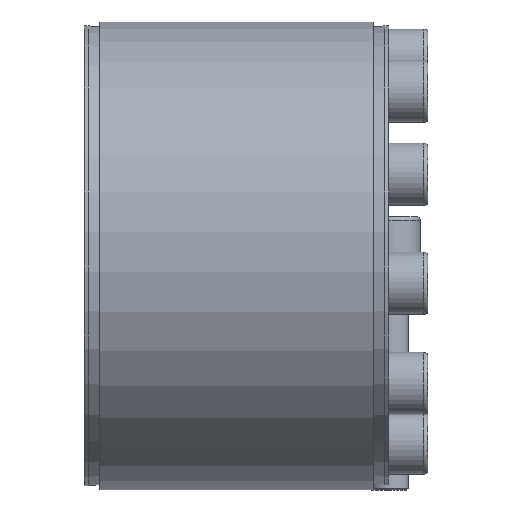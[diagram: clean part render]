
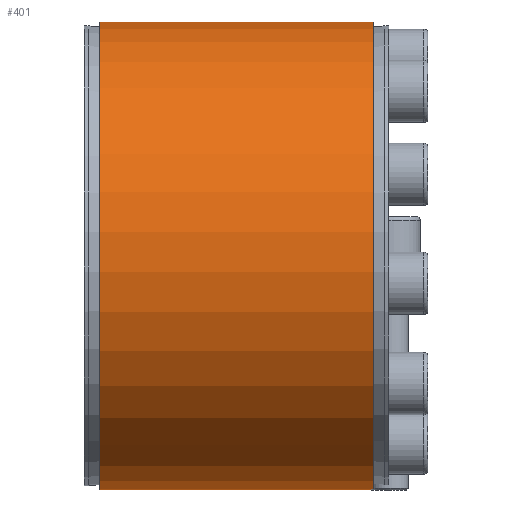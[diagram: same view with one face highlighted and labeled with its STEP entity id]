
A CAD part, left-side view. The second image highlights one B-rep face of the part: STEP entity #401.
In plain terms, the highlighted cylindrical face has radius 60 mm (diameter 120 mm), a partial arc.
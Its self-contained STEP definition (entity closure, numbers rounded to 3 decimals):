
#401 = ADVANCED_FACE( '', ( #655 ), #656, .T. );
#655 = FACE_OUTER_BOUND( '', #920, .T. );
#656 = CYLINDRICAL_SURFACE( '', #921, 60. );
#920 = EDGE_LOOP( '', ( #1254, #1255, #1256, #1257 ) );
#921 = AXIS2_PLACEMENT_3D( '', #1258, #1259, #1260 );
#1254 = ORIENTED_EDGE( '', *, *, #1765, .F. );
#1255 = ORIENTED_EDGE( '', *, *, #1766, .T. );
#1256 = ORIENTED_EDGE( '', *, *, #1724, .F. );
#1257 = ORIENTED_EDGE( '', *, *, #1767, .F. );
#1258 = CARTESIAN_POINT( '', ( 0., -60., 0. ) );
#1259 = DIRECTION( '', ( 0., 1., 0. ) );
#1260 = DIRECTION( '', ( 0., 0., -1. ) );
#1724 = EDGE_CURVE( '', #1919, #1921, #1922, .F. );
#1765 = EDGE_CURVE( '', #1997, #1998, #1999, .T. );
#1766 = EDGE_CURVE( '', #1997, #1921, #2000, .T. );
#1767 = EDGE_CURVE( '', #1998, #1919, #2001, .T. );
#1919 = VERTEX_POINT( '', #2155 );
#1921 = VERTEX_POINT( '', #2158 );
#1922 = LINE( '', #2159, #2160 );
#1997 = VERTEX_POINT( '', #2252 );
#1998 = VERTEX_POINT( '', #2253 );
#1999 = LINE( '', #2254, #2255 );
#2000 = CIRCLE( '', #2256, 60. );
#2001 = CIRCLE( '', #2257, 60. );
#2155 = CARTESIAN_POINT( '', ( 18.1, 4., 57.205 ) );
#2158 = CARTESIAN_POINT( '', ( 18.1, 74., 57.205 ) );
#2159 = CARTESIAN_POINT( '', ( 18.1, -60., 57.205 ) );
#2160 = VECTOR( '', #2408, 1000. );
#2252 = CARTESIAN_POINT( '', ( 15.701, 74., 57.909 ) );
#2253 = CARTESIAN_POINT( '', ( 15.701, 4., 57.909 ) );
#2254 = CARTESIAN_POINT( '', ( 15.701, -60., 57.909 ) );
#2255 = VECTOR( '', #2501, 1000. );
#2256 = AXIS2_PLACEMENT_3D( '', #2502, #2503, #2504 );
#2257 = AXIS2_PLACEMENT_3D( '', #2505, #2506, #2507 );
#2408 = DIRECTION( '', ( 0., -1., 0. ) );
#2501 = DIRECTION( '', ( 0., -1., 0. ) );
#2502 = CARTESIAN_POINT( '', ( 0., 74., 0. ) );
#2503 = DIRECTION( '', ( 0., -1., 0. ) );
#2504 = DIRECTION( '', ( 0., 0., -1. ) );
#2505 = CARTESIAN_POINT( '', ( 0., 4., 0. ) );
#2506 = DIRECTION( '', ( 0., -1., 0. ) );
#2507 = DIRECTION( '', ( 0., 0., -1. ) );
